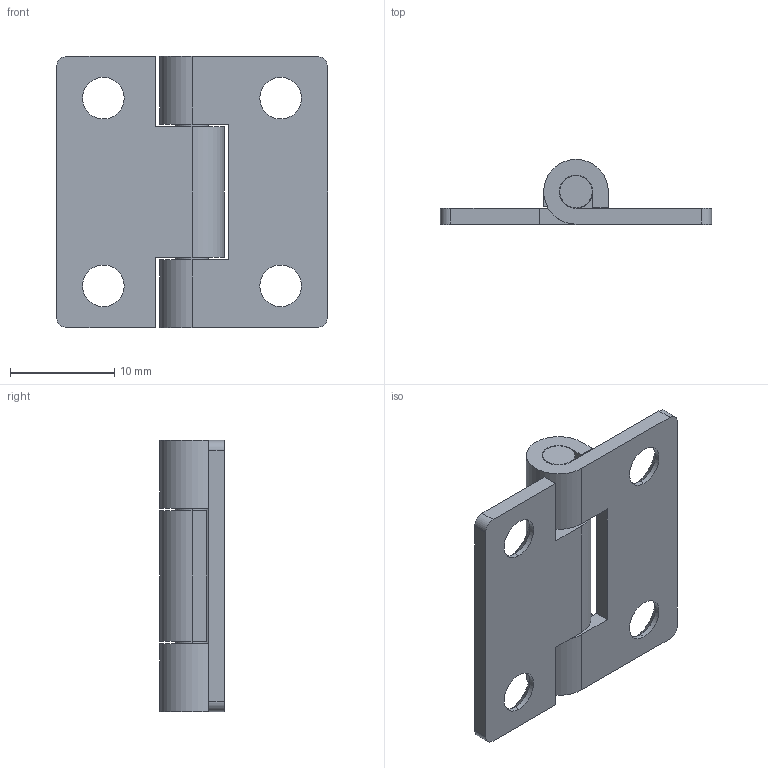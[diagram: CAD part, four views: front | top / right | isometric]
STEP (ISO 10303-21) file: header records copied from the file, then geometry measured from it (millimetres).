
FILE_DESCRIPTION (( 'STEP AP203' ), '1' );
FILE_NAME ('XG11-041-1.STEP', '2023-12-04T09:32:43', ( '' ), ( '' ), 'SwSTEP 2.0', 'SolidWorks 2020', '' );
FILE_SCHEMA (( 'CONFIG_CONTROL_DESIGN' ));
Length unit declared in the file: millimetre
Products named in the file (1): XG11-041-1
Bounding box: 26 x 6.2 x 26 mm (x, y, z)
Volume: 1442.6 mm3; surface area: 2375.2 mm2
Topology: 3 solids, 3 shells, 56 faces, 142 edges, 92 vertices
Faces by surface type: plane 28, cylinder 20, cone 8
Entity records: 1779 total; most frequent: DIRECTION 304, CARTESIAN_POINT 291, ORIENTED_EDGE 284, EDGE_CURVE 142, AXIS2_PLACEMENT_3D 105, LINE 94, VECTOR 94, VERTEX_POINT 92
